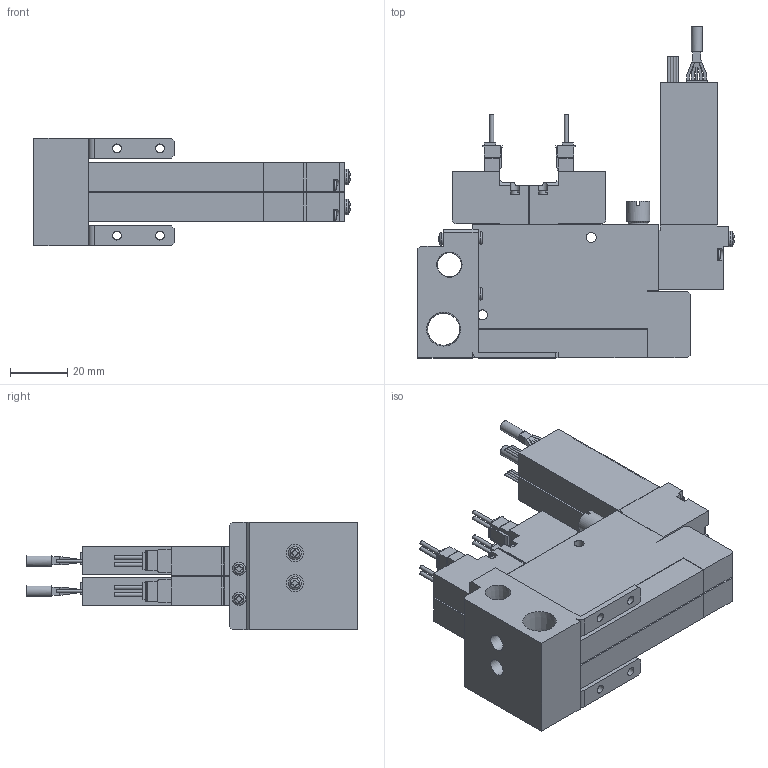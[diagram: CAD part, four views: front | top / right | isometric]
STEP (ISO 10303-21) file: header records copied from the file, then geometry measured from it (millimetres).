
FILE_DESCRIPTION(('STEP AP203'),'1');
FILE_NAME('10C5SC202_3D.stp','2024-09-04T09:31:01',(' '),(' '),'Spatial InterOp 3D',' ',' ');
FILE_SCHEMA(('CONFIG_CONTROL_DESIGN'));
Length unit declared in the file: millimetre
Products named in the file (5): BSC1M※※10C5SC202; Solenoid valve S; Pressure Sensor 10; Unit-C; BaseMC20R
Assembly tree (7 placements, depth 2):
  BSC1M※※10C5SC202
    Solenoid valve S  x2
    Pressure Sensor 10  x2
    Unit-C  x2
    BaseMC20R
Bounding box: 110.35 x 115.8 x 37.5 mm (x, y, z)
Volume: 139898.1 mm3; surface area: 49483.3 mm2
Topology: 7 solids, 7 shells, 937 faces, 2519 edges, 1662 vertices
Faces by surface type: plane 707, cylinder 184, cone 18, sphere 14, torus 14
Full cylindrical faces by diameter (mm): 0.9 x8, 1.4 x8, 2.5 x4, 3 x12, 3.5 x16, 3.8 x2, 4 x2, 4.134 x4, 4.5 x8, 5.5 x4, 6 x2, 7 x4, 8 x2, 8.422 x1, 11.233 x1
Entity records: 17237 total; most frequent: CARTESIAN_POINT 3599, DIRECTION 2709, ORIENTED_EDGE 2686, EDGE_CURVE 1343, LINE 989, VECTOR 989, VERTEX_POINT 932, AXIS2_PLACEMENT_3D 860
